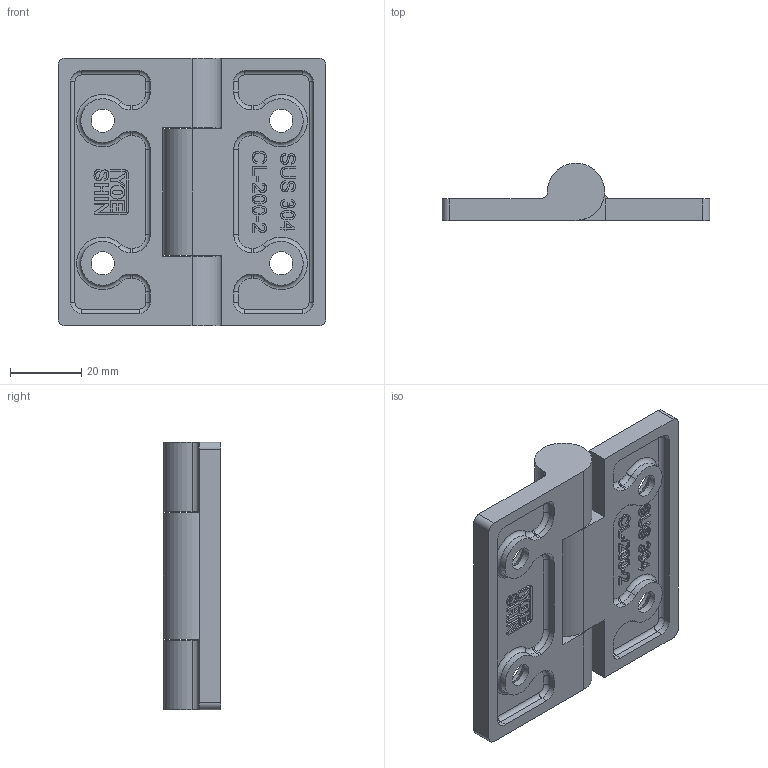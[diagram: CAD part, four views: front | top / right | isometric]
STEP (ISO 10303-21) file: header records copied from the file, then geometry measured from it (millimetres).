
FILE_DESCRIPTION(/* description */ (''),/* implementation_level */ '2;1');
FILE_NAME(/* name */ 'cl-200-2-2g.stp',/* time_stamp */ '2019-09-24T15:38:17+08:00',/* author */ (''),/* organization */ (''),/* preprocessor_version */ 'ST-DEVELOPER v16',/* originating_system */ 'SIEMENS PLM Software NX 10.0',/* authorisation */ '');
FILE_SCHEMA (('AUTOMOTIVE_DESIGN { 1 0 10303 214 3 1 1 1 }'));
Length unit declared in the file: millimetre
Products named in the file (1): Admi19102195b6s5
Bounding box: 75 x 16 x 75 mm (x, y, z)
Volume: 30436.1 mm3; surface area: 19009.4 mm2
Topology: 2 solids, 2 shells, 454 faces, 1216 edges, 796 vertices
Faces by surface type: bspline 178, plane 169, cylinder 75, torus 28, cone 4
Full cylindrical faces by diameter (mm): 6.5 x4, 8 x3, 12.5 x4
Entity records: 15707 total; most frequent: CARTESIAN_POINT 5501, ORIENTED_EDGE 2382, DIRECTION 1574, EDGE_CURVE 1191, VERTEX_POINT 786, LINE 648, VECTOR 648, EDGE_LOOP 509
